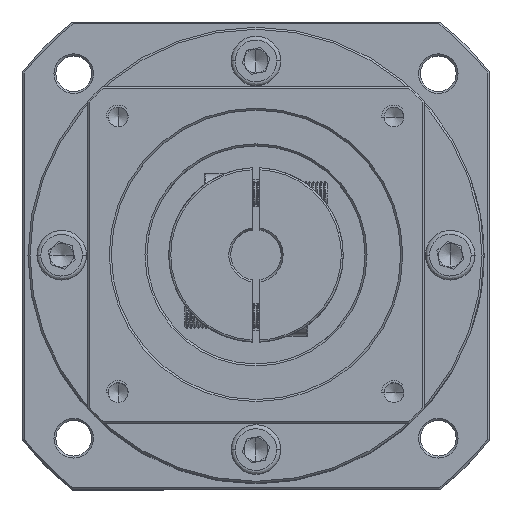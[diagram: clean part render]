
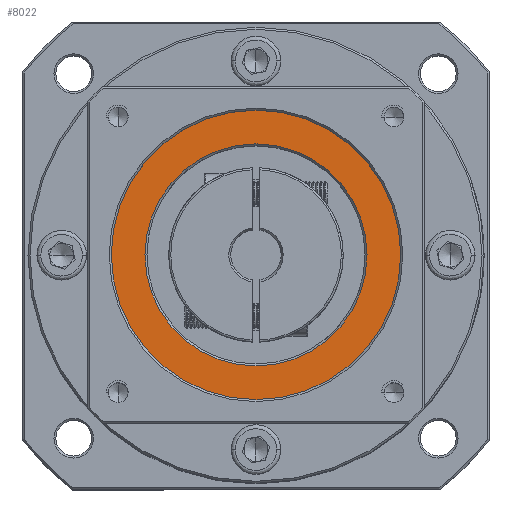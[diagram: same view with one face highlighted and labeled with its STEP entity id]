
A CAD part, top view. The second image highlights one B-rep face of the part: STEP entity #8022.
In plain terms, the highlighted planar face has unit normal (0, 0, 1).
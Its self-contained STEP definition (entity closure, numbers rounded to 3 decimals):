
#1293 = ORIENTED_EDGE ( 'NONE', *, *, #29795, .T. ) ;
#4739 = CARTESIAN_POINT ( 'NONE',  ( 45.074, -0.785, 102.5 ) ) ;
#4903 = AXIS2_PLACEMENT_3D ( 'NONE', #4739, #62807, #13052 ) ;
#6496 = CIRCLE ( 'NONE', #22767, 36.5 ) ;
#8022 = ADVANCED_FACE ( 'NONE', ( #61738, #39581 ), #12693, .T. ) ;
#8262 = DIRECTION ( 'NONE',  ( 1., 0., 0. ) ) ;
#11620 = CARTESIAN_POINT ( 'NONE',  ( 17.074, -0.785, 102.5 ) ) ;
#12693 = PLANE ( 'NONE',  #4903 ) ;
#13052 = DIRECTION ( 'NONE',  ( 1., 0., 0. ) ) ;
#14088 = DIRECTION ( 'NONE',  ( 0., 0., -1. ) ) ;
#16079 = CIRCLE ( 'NONE', #17589, 28. ) ;
#17589 = AXIS2_PLACEMENT_3D ( 'NONE', #46232, #104359, #54621 ) ;
#20079 = EDGE_LOOP ( 'NONE', ( #87480, #21139 ) ) ;
#21139 = ORIENTED_EDGE ( 'NONE', *, *, #28830, .T. ) ;
#22767 = AXIS2_PLACEMENT_3D ( 'NONE', #45198, #103296, #53567 ) ;
#27449 = VERTEX_POINT ( 'NONE', #11620 ) ;
#28830 = EDGE_CURVE ( 'NONE', #65372, #70966, #63543, .T. ) ;
#29795 = EDGE_CURVE ( 'NONE', #27449, #63273, #16079, .T. ) ;
#39561 = CARTESIAN_POINT ( 'NONE',  ( 8.574, -0.785, 102.5 ) ) ;
#39581 = FACE_BOUND ( 'NONE', #73343, .T. ) ;
#42802 = ORIENTED_EDGE ( 'NONE', *, *, #73957, .T. ) ;
#45198 = CARTESIAN_POINT ( 'NONE',  ( 45.074, -0.785, 102.5 ) ) ;
#46232 = CARTESIAN_POINT ( 'NONE',  ( 45.074, -0.785, 102.5 ) ) ;
#53567 = DIRECTION ( 'NONE',  ( 1., 0., 0. ) ) ;
#54621 = DIRECTION ( 'NONE',  ( 1., 0., 0. ) ) ;
#57620 = EDGE_CURVE ( 'NONE', #70966, #65372, #6496, .T. ) ;
#58049 = DIRECTION ( 'NONE',  ( 0., 0., 1. ) ) ;
#59932 = AXIS2_PLACEMENT_3D ( 'NONE', #107799, #58049, #8262 ) ;
#61738 = FACE_OUTER_BOUND ( 'NONE', #20079, .T. ) ;
#62807 = DIRECTION ( 'NONE',  ( 0., 0., 1. ) ) ;
#63273 = VERTEX_POINT ( 'NONE', #105547 ) ;
#63543 = CIRCLE ( 'NONE', #59932, 36.5 ) ;
#63848 = CARTESIAN_POINT ( 'NONE',  ( 45.074, -0.785, 102.5 ) ) ;
#65372 = VERTEX_POINT ( 'NONE', #39561 ) ;
#69171 = CIRCLE ( 'NONE', #70049, 28. ) ;
#70049 = AXIS2_PLACEMENT_3D ( 'NONE', #63848, #14088, #72142 ) ;
#70966 = VERTEX_POINT ( 'NONE', #98156 ) ;
#72142 = DIRECTION ( 'NONE',  ( 1., 0., 0. ) ) ;
#73343 = EDGE_LOOP ( 'NONE', ( #42802, #1293 ) ) ;
#73957 = EDGE_CURVE ( 'NONE', #63273, #27449, #69171, .T. ) ;
#87480 = ORIENTED_EDGE ( 'NONE', *, *, #57620, .T. ) ;
#98156 = CARTESIAN_POINT ( 'NONE',  ( 81.574, -0.785, 102.5 ) ) ;
#103296 = DIRECTION ( 'NONE',  ( 0., 0., 1. ) ) ;
#104359 = DIRECTION ( 'NONE',  ( 0., 0., -1. ) ) ;
#105547 = CARTESIAN_POINT ( 'NONE',  ( 73.074, -0.785, 102.5 ) ) ;
#107799 = CARTESIAN_POINT ( 'NONE',  ( 45.074, -0.785, 102.5 ) ) ;
